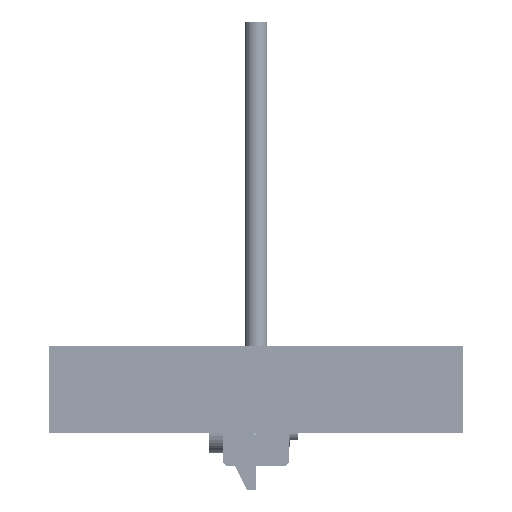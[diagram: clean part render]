
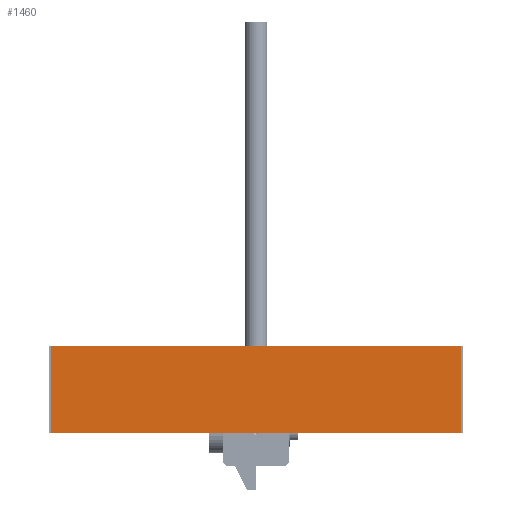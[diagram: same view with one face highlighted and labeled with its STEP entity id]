
A CAD part, front view. The second image highlights one B-rep face of the part: STEP entity #1460.
In plain terms, the highlighted planar face has unit normal (0, -1, 0) as drawn and (0, 0, -1) by its records, which use the part's own axes.
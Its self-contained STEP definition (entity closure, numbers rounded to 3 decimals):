
#1460 = ADVANCED_FACE( '', ( #3711 ), #3712, .T. );
#3711 = FACE_OUTER_BOUND( '', #8247, .T. );
#3712 = PLANE( '', #8248 );
#8247 = EDGE_LOOP( '', ( #13400, #13401, #13402, #13403 ) );
#8248 = AXIS2_PLACEMENT_3D( '', #13404, #13405, #13406 );
#13400 = ORIENTED_EDGE( '', *, *, #19705, .T. );
#13401 = ORIENTED_EDGE( '', *, *, #19706, .T. );
#13402 = ORIENTED_EDGE( '', *, *, #19707, .T. );
#13403 = ORIENTED_EDGE( '', *, *, #19708, .T. );
#13404 = CARTESIAN_POINT( '', ( -360., 152., 0. ) );
#13405 = DIRECTION( '', ( 0., 0., -1. ) );
#13406 = DIRECTION( '', ( -1., 0., 0. ) );
#19705 = EDGE_CURVE( '', #22693, #22694, #22695, .T. );
#19706 = EDGE_CURVE( '', #22694, #22696, #22697, .T. );
#19707 = EDGE_CURVE( '', #22696, #22698, #22699, .T. );
#19708 = EDGE_CURVE( '', #22698, #22693, #22700, .T. );
#22693 = VERTEX_POINT( '', #27072 );
#22694 = VERTEX_POINT( '', #27073 );
#22695 = LINE( '', #27074, #27075 );
#22696 = VERTEX_POINT( '', #27076 );
#22697 = LINE( '', #27077, #27078 );
#22698 = VERTEX_POINT( '', #27079 );
#22699 = LINE( '', #27080, #27081 );
#22700 = LINE( '', #27082, #27083 );
#27072 = CARTESIAN_POINT( '', ( -360., 0., 0. ) );
#27073 = CARTESIAN_POINT( '', ( -360., 152., 0. ) );
#27074 = CARTESIAN_POINT( '', ( -360., 0., 0. ) );
#27075 = VECTOR( '', #32195, 1000. );
#27076 = CARTESIAN_POINT( '', ( 360., 152., 0. ) );
#27077 = CARTESIAN_POINT( '', ( -360., 152., 0. ) );
#27078 = VECTOR( '', #32196, 1000. );
#27079 = CARTESIAN_POINT( '', ( 360., 0., 0. ) );
#27080 = CARTESIAN_POINT( '', ( 360., 152., 0. ) );
#27081 = VECTOR( '', #32197, 1000. );
#27082 = CARTESIAN_POINT( '', ( 360., 0., 0. ) );
#27083 = VECTOR( '', #32198, 1000. );
#32195 = DIRECTION( '', ( 0., 1., 0. ) );
#32196 = DIRECTION( '', ( 1., 0., 0. ) );
#32197 = DIRECTION( '', ( 0., -1., 0. ) );
#32198 = DIRECTION( '', ( -1., 0., 0. ) );
